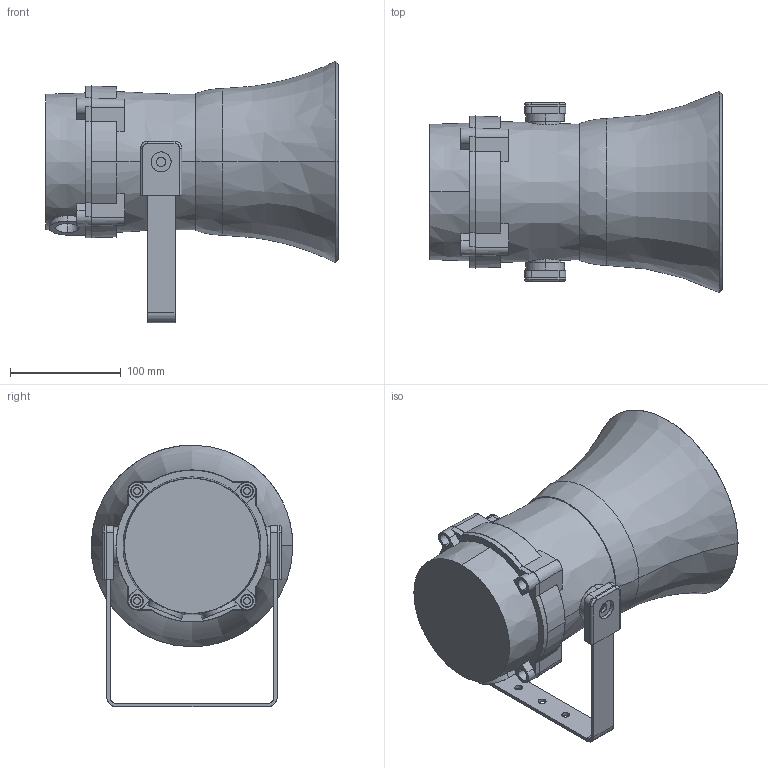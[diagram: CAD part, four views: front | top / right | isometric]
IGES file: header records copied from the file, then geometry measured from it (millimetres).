
Start section: SolidWorks IGES file using analytic representation for surfaces
Global section: file name: L:\3D Volumenmodelle\BEX\BEXS\BEXS110d\BEXS110d.IGS; native system: SolidWorks 2015; preprocessor: SolidWorks 2015; author: PDG_MM; date: 170623.153514; units: millimetre
Bounding box: 263.6 x 181.64 x 235.82 mm (x, y, z)
Surface area: 357301.5 mm2 (no closed solid volume)
Topology: 0 solids, 0 shells, 246 faces, 5155 edges, 5155 vertices
Faces by surface type: bspline 129, revolution 117
